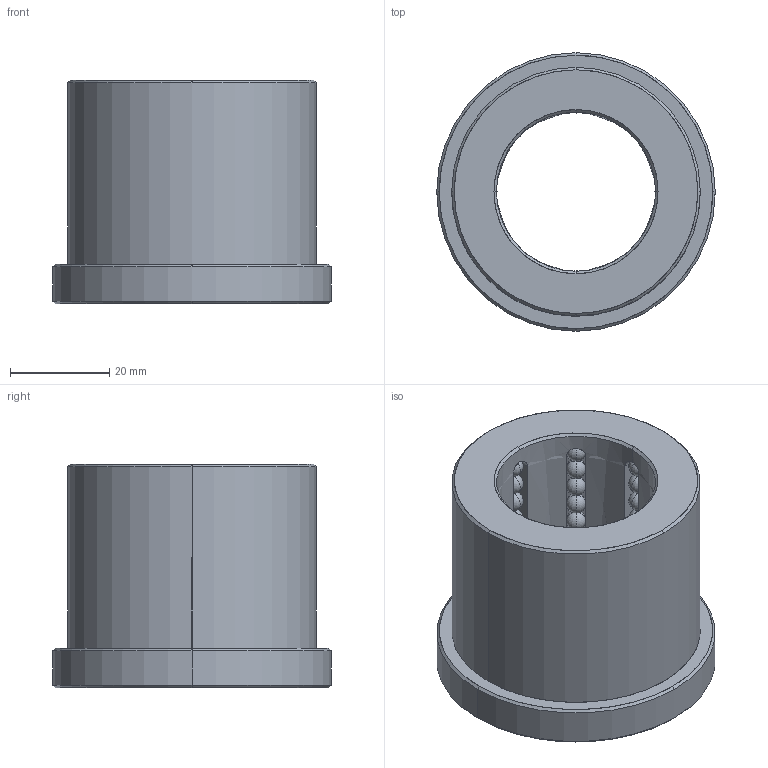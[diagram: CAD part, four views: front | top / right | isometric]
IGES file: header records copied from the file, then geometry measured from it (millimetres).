
Start section: START RECORD GO HERE.
Global section: file name: B8013245.igs; native system: DASSAULT SYSTEMES CATIA V5 R20 - www.3ds.com; preprocessor: CATIA Version 5 Release 20 ; author: Utente; organization: NB04-ASUS; date: 20200419.142913; units: millimetre
Bounding box: 56 x 56 x 45 mm (x, y, z)
Surface area: 21024.6 mm2 (no closed solid volume)
Topology: 0 solids, 0 shells, 357 faces, 1492 edges, 916 vertices
Faces by surface type: revolution 330, plane 27
